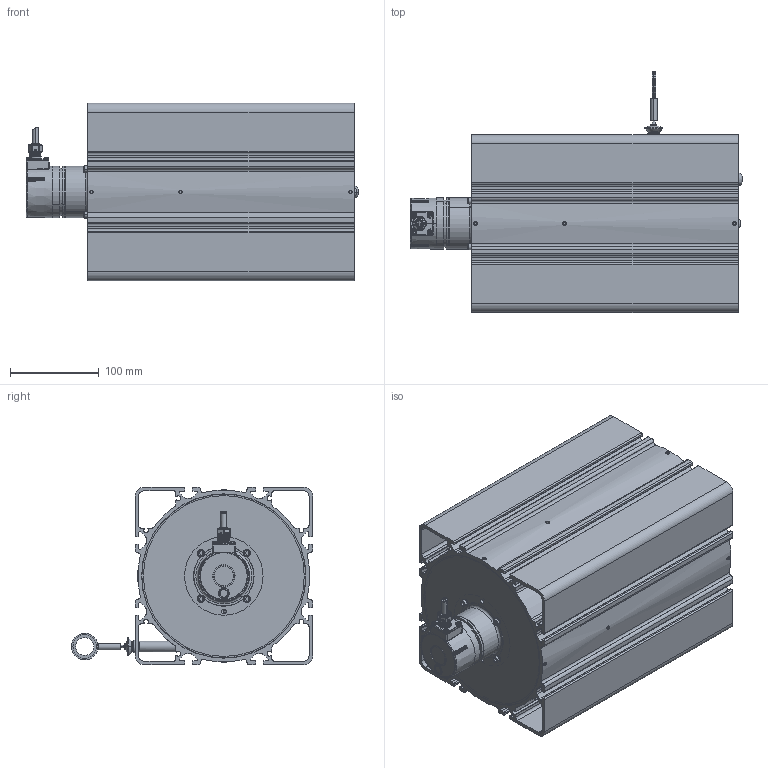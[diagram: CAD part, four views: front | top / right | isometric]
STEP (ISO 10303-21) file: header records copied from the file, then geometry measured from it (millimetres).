
FILE_DESCRIPTION((''),'2;1');
FILE_NAME('WDS-40000-P200-CR-TTL_02_ASM','2024-05-28T12:34:12',('15000597'),(''),'CREO PARAMETRIC BY PTC INC, 2022164','CREO PARAMETRIC BY PTC INC, 2022164','');
FILE_SCHEMA(('AUTOMOTIVE_DESIGN { 1 0 10303 214 1 1 1 1 }'));
Products named in the file (34): TELESO_SENZORU_40M_P200_AF0; HRIDEL_MOTORU_30-40M_P200_AF0; BOCNICE_VNEJSI_P200_AF0; LOZISKO_6000_10X26X8_AF1; PREDNI_STENA_P200_DIRA_S_POJIST_AF0; SROUB_ISO7380_COC_HEX_C_M5X10_AF0; TRUBKA_PRUCHODKY_P200_AF0; PRUCHODKA_P200; GUMOVY_VLNOVEC; STIRATKO_LANKO_FORMA_0I8; DUTY_NYT_A_3X10; GP_7I5X2I0X25_EXT_EPDM60; LANKO_7X7_0I63_0I8_AF0; OKO_LANKA_TRE; CU_HULSE_2X1I4X5_AF0; SPOJKA_GS5_PR6_2I1_AF0; KOLIK_PRUZNY_2X8_AF0; SROUB_ISO4026_STAV_HEX_M4X4; PRIRUBA_SYNCHRO_P96_P200_AF0; PODLOZKA_M4_VEJIROVA_AF1; PODLOZKA_M4_VEJIROVA_AF3; PODLOZKA_M4_VEJIROVA_AF4; PODLOZKA_M4_VEJIROVA_AF5; PODLOZKA_M4_VEJIROVA_AF6; SROUB_ISO4762_VALC_HEX_M4X6_AF0; SROUB_ISO4762_VALC_HEX_M4X6_AF1; SROUB_ISO4762_VALC_HEX_M4X6_AF2; SROUB_ISO4762_VALC_HEX_M4X6_AF3; SPOJKA_KRIZ_AF0; SPOJKA_GS5_PR6_AF0; SROUB_ISO4029_STAV_HEX_M3X3_AF0; SROUB_ISO7380_COC_HEX_M8X8_AF0; BAU_SYNCHRO_TTL_EIL580-SY06I5RE; WDS-40000-P200-CR-TTL_02_ASM
Assembly tree (44 placements, depth 2):
  WDS-40000-P200-CR-TTL_02_ASM
    TELESO_SENZORU_40M_P200_AF0
    HRIDEL_MOTORU_30-40M_P200_AF0
    BOCNICE_VNEJSI_P200_AF0
    LOZISKO_6000_10X26X8_AF1
    PREDNI_STENA_P200_DIRA_S_POJIST_AF0
    SROUB_ISO7380_COC_HEX_C_M5X10_AF0
    TRUBKA_PRUCHODKY_P200_AF0
    PRUCHODKA_P200
    GUMOVY_VLNOVEC
    STIRATKO_LANKO_FORMA_0I8
    DUTY_NYT_A_3X10
    GP_7I5X2I0X25_EXT_EPDM60
    LANKO_7X7_0I63_0I8_AF0
    OKO_LANKA_TRE
    CU_HULSE_2X1I4X5_AF0
    SPOJKA_GS5_PR6_2I1_AF0
    KOLIK_PRUZNY_2X8_AF0
    SROUB_ISO4026_STAV_HEX_M4X4  x12
    PRIRUBA_SYNCHRO_P96_P200_AF0
    PODLOZKA_M4_VEJIROVA_AF1
    PODLOZKA_M4_VEJIROVA_AF3
    PODLOZKA_M4_VEJIROVA_AF4
    PODLOZKA_M4_VEJIROVA_AF5
    PODLOZKA_M4_VEJIROVA_AF6
    SROUB_ISO4762_VALC_HEX_M4X6_AF0
    SROUB_ISO4762_VALC_HEX_M4X6_AF1
    SROUB_ISO4762_VALC_HEX_M4X6_AF2
    SROUB_ISO4762_VALC_HEX_M4X6_AF3
    SPOJKA_KRIZ_AF0
    SPOJKA_GS5_PR6_AF0
    SROUB_ISO4029_STAV_HEX_M3X3_AF0
    SROUB_ISO7380_COC_HEX_M8X8_AF0
    BAU_SYNCHRO_TTL_EIL580-SY06I5RE
Bounding box: 374.1 x 271.7 x 200 mm (x, y, z)
Volume: 1696486.1 mm3; surface area: 899386.3 mm2
Topology: 35 solids, 74 shells, 1815 faces, 4893 edges, 3172 vertices
Faces by surface type: plane 713, cylinder 636, cone 167, bspline 136, torus 110, revolution 20, extrusion 18, sphere 15
Entity records: 89431 total; most frequent: CARTESIAN_POINT 33342, ORIENTED_EDGE 8734, DIRECTION 8179, EDGE_CURVE 4441, PRESENTATION_STYLE_ASSIGNMENT 3521, STYLED_ITEM 3521, AXIS2_PLACEMENT_3D 3231, VERTEX_POINT 2908
